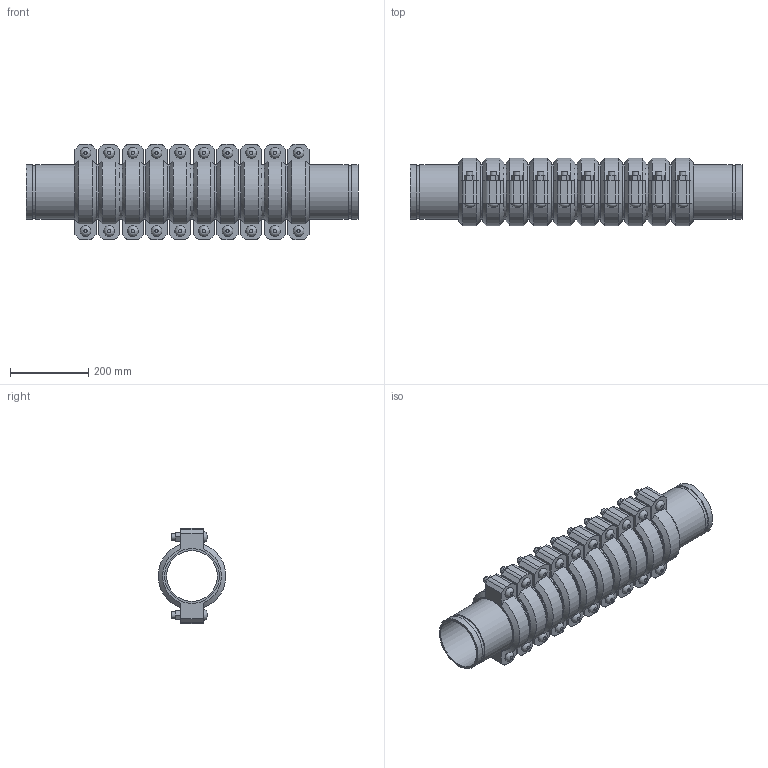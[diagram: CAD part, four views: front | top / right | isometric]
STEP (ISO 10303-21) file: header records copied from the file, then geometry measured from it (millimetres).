
FILE_DESCRIPTION(/* description */ ('VIC EXPANSION JOINT 10 COUPLINGS COMPRESSED STYLE 155 (OGS)','CAx-IF Rec.Pracs.---Representation and Presentation of Product Manufacturing Information (PMI)---4.0---2014-10-13'),/* implementation_level */ '2;1');
FILE_NAME(/* name */ 'C:\Users\kkamble\AppData\Roaming\Autodesk\ApplicationPlugins\Victaulic.Temp\A539\Victaulic_IPS_Expansion Joint_Compressed_10 Couplings_Style 155 (OGS)_05.0 (139.7) (125).stp',/* time_stamp */ '2021-06-27T00:16:55+02:00',/* author */ ('kkamble'),/* organization */ ('Victaulic'),/* preprocessor_version */ 'ST-DEVELOPER v17.2',/* originating_system */ 'Autodesk Inventor 2019',/* authorisation */ '');
FILE_SCHEMA (('AP242_MANAGED_MODEL_BASED_3D_ENGINEERING_MIM_LF { 1 0 10303 442 1 1 4 }'));
Length unit declared in the file: inch
Products named in the file (4): 155-05.0 (139.7); Nipple-05.0 (139.7); Nipple-05.0 (139.7)_1; 075_10_Coup05.0 (139.7)
Assembly tree (21 placements, depth 2):
  155-05.0 (139.7)
    Nipple-05.0 (139.7)  x2
    Nipple-05.0 (139.7)_1  x9
    075_10_Coup05.0 (139.7)  x10
Bounding box: 848.11 x 172.14 x 243.59 mm (x, y, z)
Volume: 7959594.2 mm3; surface area: 1782285.8 mm2
Topology: 21 solids, 41 shells, 702 faces, 1660 edges, 1164 vertices
Faces by surface type: plane 426, cylinder 216, cone 40, bspline 20
Full cylindrical faces by diameter (mm): 15.875 x40, 17.424 x20, 129.388 x11, 133.35 x10, 135.484 x22, 139.7 x53
Entity records: 2890 total; most frequent: CARTESIAN_POINT 505, DIRECTION 485, ORIENTED_EDGE 386, AXIS2_PLACEMENT_3D 196, EDGE_CURVE 193, VERTEX_POINT 138, EDGE_LOOP 107, LINE 93
